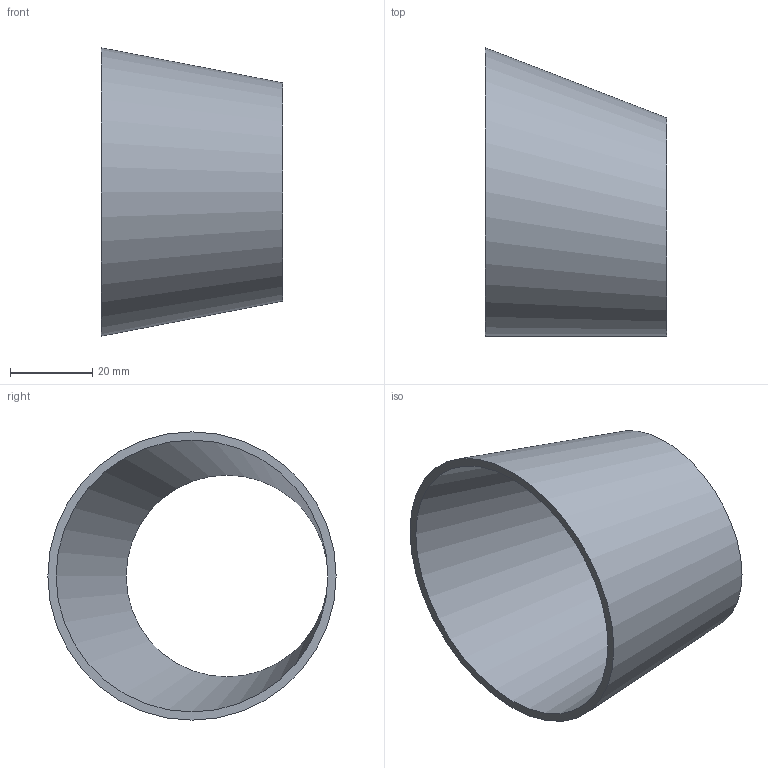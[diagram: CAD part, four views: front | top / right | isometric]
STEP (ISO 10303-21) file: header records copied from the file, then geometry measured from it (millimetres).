
FILE_DESCRIPTION(('FreeCAD Model'),'2;1');
FILE_NAME( '/home/martin/Documents/proyect/accesorios/stp/red-exc_DN65-50.step', '2017-12-31T13:04:06',('Author'),(''), 'Open CASCADE STEP processor 6.8','FreeCAD','Unknown');
FILE_SCHEMA(('AUTOMOTIVE_DESIGN_CC2 { 1 2 10303 214 -1 1 5 4 }'));
Length unit declared in the file: millimetre
Products named in the file (1): red-exc_DN65-50
Bounding box: 44 x 70 x 70 mm (x, y, z)
Volume: 16449.4 mm3; surface area: 17645.7 mm2
Topology: 1 solids, 1 shells, 4 faces, 6 edges, 4 vertices
Faces by surface type: bspline 2, plane 2
Entity records: 247 total; most frequent: CARTESIAN_POINT 87, DIRECTION 26, ORIENTED_EDGE 12, PCURVE 12, DEFINITIONAL_REPRESENTATION 12, CIRCLE 8, LINE 8, VECTOR 8
